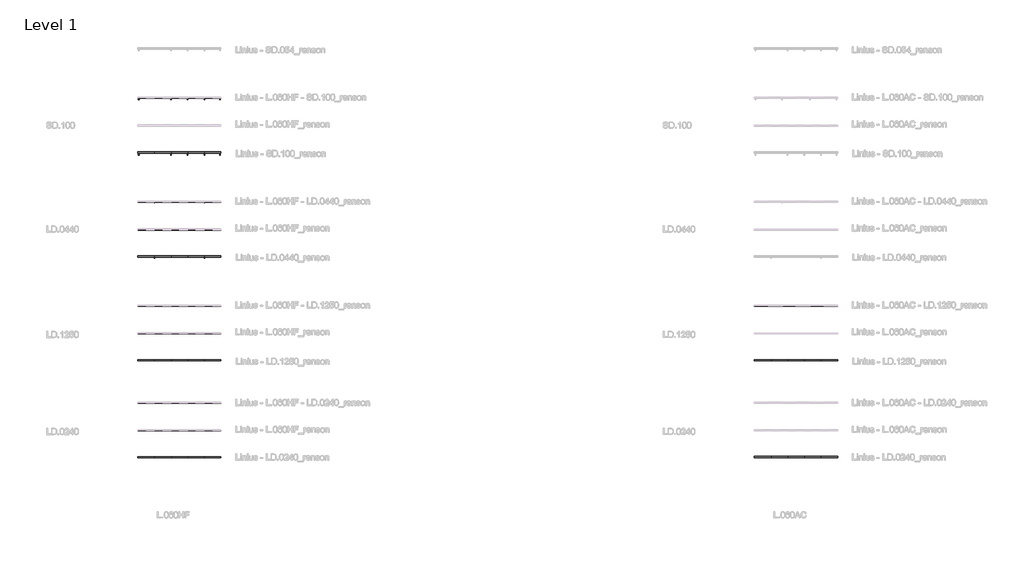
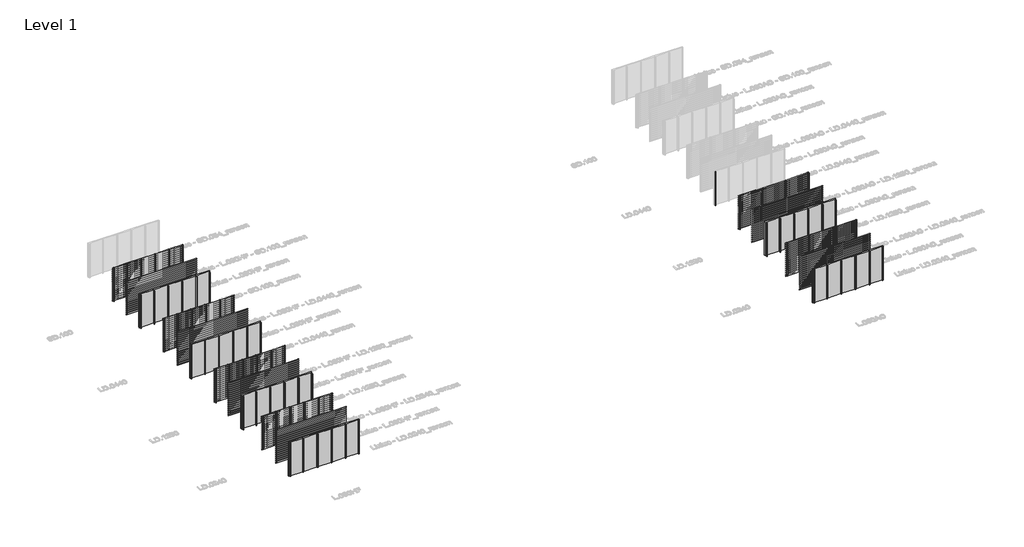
# One storey, part 1 of 153: 69 members, 62 plates.
"""IFC4 building model written with IfcOpenShell, lengths in millimetres."""

from ifc_helpers import new_model, si_unit, origin, origin_with_axes, place, context, project, spatial, polyline, outline, extrude, transform, mapped, element, save
from components import rectangular_mullion_2c867e25, rectangular_mullion_7803f5c4, rectangular_mullion_82152e2f, rectangular_mullion_5b30f3fd, rectangular_mullion_5e0e8e0a, rectangular_mullion_d2d38772, rectangular_mullion_efb80f74, rectangular_mullion_aaa1fb1b, rectangular_mullion_ea9d012c, rectangular_mullion_8b77bd57, rectangular_mullion_6132f1f1, rectangular_mullion_8f153c19, empty_system_panel_empty_5195cd12

model = new_model("IFC4")

# Units and contexts
model_context = context("Model", 3, world=origin())
ifc_project = project(units=[si_unit("LENGTHUNIT", "METRE", prefix="MILLI")], contexts=[model_context])

# Site, building, storey
site = spatial("IfcSite", under=ifc_project)
building = spatial("IfcBuilding", under=site)
storey = spatial("IfcBuildingStorey", under=building, Name="Level 1", Elevation=0.0)

# Members
placement = place(None, origin())
rectangular_mullion_shape = rectangular_mullion_2c867e25(model_context)
element("IfcMember", 1, ObjectType="Rectangular Mullion : LD.0440_renson", at=placement, inside=storey, context=model_context, shape_type="MappedRepresentation", body=[
    mapped(rectangular_mullion_shape, transform((5266.6208095, 21481.0540136, 0.0), x_axis=(-1.0, 0.0, 0.0), y_axis=(0.0, 1.0, 0.0), z_axis=(0.0, 0.0, -1.0))),
])
element("IfcMember", 2, ObjectType="Rectangular Mullion : LD.0440_renson", at=placement, inside=storey, context=model_context, shape_type="MappedRepresentation", body=[
    mapped(rectangular_mullion_shape, transform((4066.6208096, 21481.0540136, 0.0), x_axis=(-1.0, 0.0, 0.0), y_axis=(0.0, 1.0, 0.0), z_axis=(0.0, 0.0, -1.0))),
])
element("IfcMember", 3, ObjectType="Rectangular Mullion : LD.0440_renson", at=placement, inside=storey, context=model_context, shape_type="MappedRepresentation", body=[
    mapped(rectangular_mullion_shape, transform((2866.6208097, 21481.0540136, 0.0), x_axis=(-1.0, 0.0, 0.0), y_axis=(0.0, 1.0, 0.0), z_axis=(0.0, 0.0, -1.0))),
])
element("IfcMember", 4, ObjectType="Rectangular Mullion : LD.0440_renson", at=placement, inside=storey, context=model_context, shape_type="MappedRepresentation", body=[
    mapped(rectangular_mullion_shape, transform((1666.6208099, 21481.0540136, 0.0), x_axis=(-1.0, 0.0, 0.0), y_axis=(0.0, 1.0, 0.0), z_axis=(0.0, 0.0, -1.0))),
])
element("IfcMember", 5, ObjectType="Rectangular Mullion : LD.0440_renson", at=placement, inside=storey, context=model_context, shape_type="MappedRepresentation", body=[
    mapped(rectangular_mullion_shape, transform((5266.6208095, 17481.0540136, 0.0), x_axis=(-1.0, 0.0, 0.0), y_axis=(0.0, 1.0, 0.0), z_axis=(0.0, 0.0, -1.0))),
])
element("IfcMember", 6, ObjectType="Rectangular Mullion : LD.0440_renson", at=placement, inside=storey, context=model_context, shape_type="MappedRepresentation", body=[
    mapped(rectangular_mullion_shape, transform((4066.6208096, 17481.0540136, 0.0), x_axis=(-1.0, 0.0, 0.0), y_axis=(0.0, 1.0, 0.0), z_axis=(0.0, 0.0, -1.0))),
])
element("IfcMember", 7, ObjectType="Rectangular Mullion : LD.0440_renson", at=placement, inside=storey, context=model_context, shape_type="MappedRepresentation", body=[
    mapped(rectangular_mullion_shape, transform((2866.6208097, 17481.0540136, 0.0), x_axis=(-1.0, 0.0, 0.0), y_axis=(0.0, 1.0, 0.0), z_axis=(0.0, 0.0, -1.0))),
])
element("IfcMember", 8, ObjectType="Rectangular Mullion : LD.0440_renson", at=placement, inside=storey, context=model_context, shape_type="MappedRepresentation", body=[
    mapped(rectangular_mullion_shape, transform((1666.6208099, 17481.0540136, 0.0), x_axis=(-1.0, 0.0, 0.0), y_axis=(0.0, 1.0, 0.0), z_axis=(0.0, 0.0, -1.0))),
])
rectangular_mullion_2_shape = rectangular_mullion_7803f5c4(model_context)
element("IfcMember", 9, ObjectType="Rectangular Mullion : LD.1250_renson", at=placement, inside=storey, context=model_context, shape_type="MappedRepresentation", body=[
    mapped(rectangular_mullion_2_shape, transform((5266.6208095, 13981.0540136, 0.0), x_axis=(-1.0, 0.0, 0.0), y_axis=(0.0, 1.0, 0.0), z_axis=(0.0, 0.0, -1.0))),
])
element("IfcMember", 10, ObjectType="Rectangular Mullion : LD.1250_renson", at=placement, inside=storey, context=model_context, shape_type="MappedRepresentation", body=[
    mapped(rectangular_mullion_2_shape, transform((4066.6208096, 13981.0540136, 0.0), x_axis=(-1.0, 0.0, 0.0), y_axis=(0.0, 1.0, 0.0), z_axis=(0.0, 0.0, -1.0))),
])
element("IfcMember", 11, ObjectType="Rectangular Mullion : LD.1250_renson", at=placement, inside=storey, context=model_context, shape_type="MappedRepresentation", body=[
    mapped(rectangular_mullion_2_shape, transform((2866.6208097, 13981.0540136, 0.0), x_axis=(-1.0, 0.0, 0.0), y_axis=(0.0, 1.0, 0.0), z_axis=(0.0, 0.0, -1.0))),
])
element("IfcMember", 12, ObjectType="Rectangular Mullion : LD.1250_renson", at=placement, inside=storey, context=model_context, shape_type="MappedRepresentation", body=[
    mapped(rectangular_mullion_2_shape, transform((1666.6208099, 13981.0540136, 0.0), x_axis=(-1.0, 0.0, 0.0), y_axis=(0.0, 1.0, 0.0), z_axis=(0.0, 0.0, -1.0))),
])
element("IfcMember", 13, ObjectType="Rectangular Mullion : LD.1250_renson", at=placement, inside=storey, context=model_context, shape_type="MappedRepresentation", body=[
    mapped(rectangular_mullion_2_shape, transform((5266.6208095, 9981.0540136, 0.0), x_axis=(-1.0, 0.0, 0.0), y_axis=(0.0, 1.0, 0.0), z_axis=(0.0, 0.0, -1.0))),
])
element("IfcMember", 14, ObjectType="Rectangular Mullion : LD.1250_renson", at=placement, inside=storey, context=model_context, shape_type="MappedRepresentation", body=[
    mapped(rectangular_mullion_2_shape, transform((4066.6208096, 9981.0540136, 0.0), x_axis=(-1.0, 0.0, 0.0), y_axis=(0.0, 1.0, 0.0), z_axis=(0.0, 0.0, -1.0))),
])
element("IfcMember", 15, ObjectType="Rectangular Mullion : LD.1250_renson", at=placement, inside=storey, context=model_context, shape_type="MappedRepresentation", body=[
    mapped(rectangular_mullion_2_shape, transform((2866.6208097, 9981.0540136, 0.0), x_axis=(-1.0, 0.0, 0.0), y_axis=(0.0, 1.0, 0.0), z_axis=(0.0, 0.0, -1.0))),
])
element("IfcMember", 16, ObjectType="Rectangular Mullion : LD.1250_renson", at=placement, inside=storey, context=model_context, shape_type="MappedRepresentation", body=[
    mapped(rectangular_mullion_2_shape, transform((1666.6208099, 9981.0540136, 0.0), x_axis=(-1.0, 0.0, 0.0), y_axis=(0.0, 1.0, 0.0), z_axis=(0.0, 0.0, -1.0))),
])
element("IfcMember", 17, ObjectType="Rectangular Mullion : LD.1250_renson", at=placement, inside=storey, context=model_context, shape_type="MappedRepresentation", body=[
    mapped(rectangular_mullion_2_shape, transform((48966.6208096, 13983.0540136, 0.0), x_axis=(-1.0, 0.0, 0.0), y_axis=(0.0, 1.0, 0.0), z_axis=(0.0, 0.0, -1.0))),
])
element("IfcMember", 18, ObjectType="Rectangular Mullion : LD.1250_renson", at=placement, inside=storey, context=model_context, shape_type="MappedRepresentation", body=[
    mapped(rectangular_mullion_2_shape, transform((46966.6208098, 13983.0540136, 0.0), x_axis=(-1.0, 0.0, 0.0), y_axis=(0.0, 1.0, 0.0), z_axis=(0.0, 0.0, -1.0))),
])
element("IfcMember", 19, ObjectType="Rectangular Mullion : LD.1250_renson", at=placement, inside=storey, context=model_context, shape_type="MappedRepresentation", body=[
    mapped(rectangular_mullion_2_shape, transform((47366.6208097, 9983.0540136, 0.0), x_axis=(-1.0, 0.0, 0.0), y_axis=(0.0, 1.0, 0.0), z_axis=(0.0, 0.0, -1.0))),
])
element("IfcMember", 20, ObjectType="Rectangular Mullion : LD.1250_renson", at=placement, inside=storey, context=model_context, shape_type="MappedRepresentation", body=[
    mapped(rectangular_mullion_2_shape, transform((46166.6208099, 9983.0540136, 0.0), x_axis=(-1.0, 0.0, 0.0), y_axis=(0.0, 1.0, 0.0), z_axis=(0.0, 0.0, -1.0))),
])
element("IfcMember", 21, ObjectType="Rectangular Mullion : LD.1250_renson", at=placement, inside=storey, context=model_context, shape_type="MappedRepresentation", body=[
    mapped(rectangular_mullion_2_shape, transform((48566.6208096, 9983.0540136, 0.0), x_axis=(-1.0, 0.0, 0.0), y_axis=(0.0, 1.0, 0.0), z_axis=(0.0, 0.0, -1.0))),
])
element("IfcMember", 22, ObjectType="Rectangular Mullion : LD.1250_renson", at=placement, inside=storey, context=model_context, shape_type="MappedRepresentation", body=[
    mapped(rectangular_mullion_2_shape, transform((49766.6208095, 9983.0540136, 0.0), x_axis=(-1.0, 0.0, 0.0), y_axis=(0.0, 1.0, 0.0), z_axis=(0.0, 0.0, -1.0))),
])
rectangular_mullion_3_shape = rectangular_mullion_82152e2f(model_context)
element("IfcMember", 23, ObjectType="Rectangular Mullion : LD.0240_renson", at=placement, inside=storey, context=model_context, shape_type="MappedRepresentation", body=[
    mapped(rectangular_mullion_3_shape, transform((5266.6208095, 6985.0270068, 0.0), x_axis=(-1.0, 0.0, 0.0), y_axis=(0.0, 1.0, 0.0), z_axis=(0.0, 0.0, -1.0))),
])
element("IfcMember", 24, ObjectType="Rectangular Mullion : LD.0240_renson", at=placement, inside=storey, context=model_context, shape_type="MappedRepresentation", body=[
    mapped(rectangular_mullion_3_shape, transform((4066.6208096, 6985.0270068, 0.0), x_axis=(-1.0, 0.0, 0.0), y_axis=(0.0, 1.0, 0.0), z_axis=(0.0, 0.0, -1.0))),
])
element("IfcMember", 25, ObjectType="Rectangular Mullion : LD.0240_renson", at=placement, inside=storey, context=model_context, shape_type="MappedRepresentation", body=[
    mapped(rectangular_mullion_3_shape, transform((2866.6208097, 6985.0270068, 0.0), x_axis=(-1.0, 0.0, 0.0), y_axis=(0.0, 1.0, 0.0), z_axis=(0.0, 0.0, -1.0))),
])
element("IfcMember", 26, ObjectType="Rectangular Mullion : LD.0240_renson", at=placement, inside=storey, context=model_context, shape_type="MappedRepresentation", body=[
    mapped(rectangular_mullion_3_shape, transform((1666.6208099, 6985.0270068, 0.0), x_axis=(-1.0, 0.0, 0.0), y_axis=(0.0, 1.0, 0.0), z_axis=(0.0, 0.0, -1.0))),
])
element("IfcMember", 27, ObjectType="Rectangular Mullion : LD.0240_renson", at=placement, inside=storey, context=model_context, shape_type="MappedRepresentation", body=[
    mapped(rectangular_mullion_3_shape, transform((5266.6208095, 2985.0270068, 0.0), x_axis=(-1.0, 0.0, 0.0), y_axis=(0.0, 1.0, 0.0), z_axis=(0.0, 0.0, -1.0))),
])
element("IfcMember", 28, ObjectType="Rectangular Mullion : LD.0240_renson", at=placement, inside=storey, context=model_context, shape_type="MappedRepresentation", body=[
    mapped(rectangular_mullion_3_shape, transform((4066.6208096, 2985.0270068, 0.0), x_axis=(-1.0, 0.0, 0.0), y_axis=(0.0, 1.0, 0.0), z_axis=(0.0, 0.0, -1.0))),
])
element("IfcMember", 29, ObjectType="Rectangular Mullion : LD.0240_renson", at=placement, inside=storey, context=model_context, shape_type="MappedRepresentation", body=[
    mapped(rectangular_mullion_3_shape, transform((2866.6208097, 2985.0270068, 0.0), x_axis=(-1.0, 0.0, 0.0), y_axis=(0.0, 1.0, 0.0), z_axis=(0.0, 0.0, -1.0))),
])
element("IfcMember", 30, ObjectType="Rectangular Mullion : LD.0240_renson", at=placement, inside=storey, context=model_context, shape_type="MappedRepresentation", body=[
    mapped(rectangular_mullion_3_shape, transform((1666.6208099, 2985.0270068, 0.0), x_axis=(-1.0, 0.0, 0.0), y_axis=(0.0, 1.0, 0.0), z_axis=(0.0, 0.0, -1.0))),
])
element("IfcMember", 31, ObjectType="Rectangular Mullion : LD.0240_renson", at=placement, inside=storey, context=model_context, shape_type="MappedRepresentation", body=[
    mapped(rectangular_mullion_3_shape, transform((48966.6208096, 6987.0270068, 0.0), x_axis=(-1.0, 0.0, 0.0), y_axis=(0.0, 1.0, 0.0), z_axis=(0.0, 0.0, -1.0))),
])
element("IfcMember", 32, ObjectType="Rectangular Mullion : LD.0240_renson", at=placement, inside=storey, context=model_context, shape_type="MappedRepresentation", body=[
    mapped(rectangular_mullion_3_shape, transform((46966.6208098, 6987.0270068, 0.0), x_axis=(-1.0, 0.0, 0.0), y_axis=(0.0, 1.0, 0.0), z_axis=(0.0, 0.0, -1.0))),
])
element("IfcMember", 33, ObjectType="Rectangular Mullion : LD.0240_renson", at=placement, inside=storey, context=model_context, shape_type="MappedRepresentation", body=[
    mapped(rectangular_mullion_3_shape, transform((47366.6208097, 2987.0270068, 0.0), x_axis=(-1.0, 0.0, 0.0), y_axis=(0.0, 1.0, 0.0), z_axis=(0.0, 0.0, -1.0))),
])
element("IfcMember", 34, ObjectType="Rectangular Mullion : LD.0240_renson", at=placement, inside=storey, context=model_context, shape_type="MappedRepresentation", body=[
    mapped(rectangular_mullion_3_shape, transform((46166.6208099, 2987.0270068, 0.0), x_axis=(-1.0, 0.0, 0.0), y_axis=(0.0, 1.0, 0.0), z_axis=(0.0, 0.0, -1.0))),
])
element("IfcMember", 35, ObjectType="Rectangular Mullion : LD.0240_renson", at=placement, inside=storey, context=model_context, shape_type="MappedRepresentation", body=[
    mapped(rectangular_mullion_3_shape, transform((48566.6208096, 2987.0270068, 0.0), x_axis=(-1.0, 0.0, 0.0), y_axis=(0.0, 1.0, 0.0), z_axis=(0.0, 0.0, -1.0))),
])
element("IfcMember", 36, ObjectType="Rectangular Mullion : LD.0240_renson", at=placement, inside=storey, context=model_context, shape_type="MappedRepresentation", body=[
    mapped(rectangular_mullion_3_shape, transform((49766.6208095, 2987.0270068, 0.0), x_axis=(-1.0, 0.0, 0.0), y_axis=(0.0, 1.0, 0.0), z_axis=(0.0, 0.0, -1.0))),
])
rectangular_mullion_4_shape = rectangular_mullion_5b30f3fd(model_context)
element("IfcMember", 37, ObjectType="Rectangular Mullion : LD.0440 - left_renson", at=placement, inside=storey, context=model_context, shape_type="MappedRepresentation", body=[
    mapped(rectangular_mullion_4_shape, transform((466.6208097, 21481.0540136, 0.0), x_axis=(-1.0, 0.0, 0.0), y_axis=(0.0, 1.0, 0.0), z_axis=(0.0, 0.0, -1.0))),
])
element("IfcMember", 38, ObjectType="Rectangular Mullion : LD.0440 - left_renson", at=placement, inside=storey, context=model_context, shape_type="MappedRepresentation", body=[
    mapped(rectangular_mullion_4_shape, transform((466.6208097, 17481.0540136, 0.0), x_axis=(-1.0, 0.0, 0.0), y_axis=(0.0, 1.0, 0.0), z_axis=(0.0, 0.0, -1.0))),
])
element("IfcMember", 39, ObjectType="Rectangular Mullion : LD.0440 - left_renson", at=placement, inside=storey, context=model_context, shape_type="MappedRepresentation", body=[
    mapped(rectangular_mullion_4_shape, transform((44966.6208097, 17483.0540136, 0.0), x_axis=(-1.0, 0.0, 0.0), y_axis=(0.0, 1.0, 0.0), z_axis=(0.0, 0.0, -1.0))),
])
rectangular_mullion_5_shape = rectangular_mullion_5e0e8e0a(model_context)
element("IfcMember", 40, ObjectType="Rectangular Mullion : LD.0440 - right_renson", at=placement, inside=storey, context=model_context, shape_type="MappedRepresentation", body=[
    mapped(rectangular_mullion_5_shape, transform((6466.6208097, 21481.0540136, 3000.0), x_axis=(1.0, 0.0, 0.0), y_axis=(0.0, 1.0, 0.0), z_axis=(0.0, 0.0, 1.0))),
])
element("IfcMember", 41, ObjectType="Rectangular Mullion : LD.0440 - right_renson", at=placement, inside=storey, context=model_context, shape_type="MappedRepresentation", body=[
    mapped(rectangular_mullion_5_shape, transform((6466.6208097, 17481.0540136, 3000.0), x_axis=(1.0, 0.0, 0.0), y_axis=(0.0, 1.0, 0.0), z_axis=(0.0, 0.0, 1.0))),
])
rectangular_mullion_6_shape = rectangular_mullion_d2d38772(model_context)
element("IfcMember", 42, ObjectType="Rectangular Mullion : LD.1250 - left_renson", at=placement, inside=storey, context=model_context, shape_type="MappedRepresentation", body=[
    mapped(rectangular_mullion_6_shape, transform((466.6208097, 13981.0540136, 0.0), x_axis=(-1.0, 0.0, 0.0), y_axis=(0.0, 1.0, 0.0), z_axis=(0.0, 0.0, -1.0))),
])
element("IfcMember", 43, ObjectType="Rectangular Mullion : LD.1250 - left_renson", at=placement, inside=storey, context=model_context, shape_type="MappedRepresentation", body=[
    mapped(rectangular_mullion_6_shape, transform((466.6208097, 9981.0540136, 0.0), x_axis=(-1.0, 0.0, 0.0), y_axis=(0.0, 1.0, 0.0), z_axis=(0.0, 0.0, -1.0))),
])
element("IfcMember", 44, ObjectType="Rectangular Mullion : LD.1250 - left_renson", at=placement, inside=storey, context=model_context, shape_type="MappedRepresentation", body=[
    mapped(rectangular_mullion_6_shape, transform((44966.6208097, 13983.0540136, 0.0), x_axis=(-1.0, 0.0, 0.0), y_axis=(0.0, 1.0, 0.0), z_axis=(0.0, 0.0, -1.0))),
])
element("IfcMember", 45, ObjectType="Rectangular Mullion : LD.1250 - left_renson", at=placement, inside=storey, context=model_context, shape_type="MappedRepresentation", body=[
    mapped(rectangular_mullion_6_shape, transform((44966.6208097, 9983.0540136, 0.0), x_axis=(-1.0, 0.0, 0.0), y_axis=(0.0, 1.0, 0.0), z_axis=(0.0, 0.0, -1.0))),
])
rectangular_mullion_7_shape = rectangular_mullion_efb80f74(model_context)
element("IfcMember", 46, ObjectType="Rectangular Mullion : LD.1250 - right_renson", at=placement, inside=storey, context=model_context, shape_type="MappedRepresentation", body=[
    mapped(rectangular_mullion_7_shape, transform((6466.6208097, 13981.0540136, 3000.0), x_axis=(1.0, 0.0, 0.0), y_axis=(0.0, 1.0, 0.0), z_axis=(0.0, 0.0, 1.0))),
])
element("IfcMember", 47, ObjectType="Rectangular Mullion : LD.1250 - right_renson", at=placement, inside=storey, context=model_context, shape_type="MappedRepresentation", body=[
    mapped(rectangular_mullion_7_shape, transform((6466.6208097, 9981.0540136, 3000.0), x_axis=(1.0, 0.0, 0.0), y_axis=(0.0, 1.0, 0.0), z_axis=(0.0, 0.0, 1.0))),
])
element("IfcMember", 48, ObjectType="Rectangular Mullion : LD.1250 - right_renson", at=placement, inside=storey, context=model_context, shape_type="MappedRepresentation", body=[
    mapped(rectangular_mullion_7_shape, transform((50966.6208097, 13983.0540136, 3000.0), x_axis=(1.0, 0.0, 0.0), y_axis=(0.0, 1.0, 0.0), z_axis=(0.0, 0.0, 1.0))),
])
element("IfcMember", 49, ObjectType="Rectangular Mullion : LD.1250 - right_renson", at=placement, inside=storey, context=model_context, shape_type="MappedRepresentation", body=[
    mapped(rectangular_mullion_7_shape, transform((50966.6208097, 9983.0540136, 3000.0), x_axis=(1.0, 0.0, 0.0), y_axis=(0.0, 1.0, 0.0), z_axis=(0.0, 0.0, 1.0))),
])
rectangular_mullion_8_shape = rectangular_mullion_aaa1fb1b(model_context)
element("IfcMember", 50, ObjectType="Rectangular Mullion : LD.0240 - left_renson", at=placement, inside=storey, context=model_context, shape_type="MappedRepresentation", body=[
    mapped(rectangular_mullion_8_shape, transform((466.6208097, 6985.0270068, 0.0), x_axis=(-1.0, 0.0, 0.0), y_axis=(0.0, 1.0, 0.0), z_axis=(0.0, 0.0, -1.0))),
])
element("IfcMember", 51, ObjectType="Rectangular Mullion : LD.0240 - left_renson", at=placement, inside=storey, context=model_context, shape_type="MappedRepresentation", body=[
    mapped(rectangular_mullion_8_shape, transform((466.6208097, 2985.0270068, 0.0), x_axis=(-1.0, 0.0, 0.0), y_axis=(0.0, 1.0, 0.0), z_axis=(0.0, 0.0, -1.0))),
])
element("IfcMember", 52, ObjectType="Rectangular Mullion : LD.0240 - left_renson", at=placement, inside=storey, context=model_context, shape_type="MappedRepresentation", body=[
    mapped(rectangular_mullion_8_shape, transform((44966.6208097, 6987.0270068, 0.0), x_axis=(-1.0, 0.0, 0.0), y_axis=(0.0, 1.0, 0.0), z_axis=(0.0, 0.0, -1.0))),
])
element("IfcMember", 53, ObjectType="Rectangular Mullion : LD.0240 - left_renson", at=placement, inside=storey, context=model_context, shape_type="MappedRepresentation", body=[
    mapped(rectangular_mullion_8_shape, transform((44966.6208097, 2987.0270068, 0.0), x_axis=(-1.0, 0.0, 0.0), y_axis=(0.0, 1.0, 0.0), z_axis=(0.0, 0.0, -1.0))),
])
rectangular_mullion_9_shape = rectangular_mullion_ea9d012c(model_context)
element("IfcMember", 54, ObjectType="Rectangular Mullion : LD.0240 - right_renson", at=placement, inside=storey, context=model_context, shape_type="MappedRepresentation", body=[
    mapped(rectangular_mullion_9_shape, transform((6466.6208097, 6985.0270068, 3000.0), x_axis=(1.0, 0.0, 0.0), y_axis=(0.0, 1.0, 0.0), z_axis=(0.0, 0.0, 1.0))),
])
element("IfcMember", 55, ObjectType="Rectangular Mullion : LD.0240 - right_renson", at=placement, inside=storey, context=model_context, shape_type="MappedRepresentation", body=[
    mapped(rectangular_mullion_9_shape, transform((6466.6208097, 2985.0270068, 3000.0), x_axis=(1.0, 0.0, 0.0), y_axis=(0.0, 1.0, 0.0), z_axis=(0.0, 0.0, 1.0))),
])
element("IfcMember", 56, ObjectType="Rectangular Mullion : LD.0240 - right_renson", at=placement, inside=storey, context=model_context, shape_type="MappedRepresentation", body=[
    mapped(rectangular_mullion_9_shape, transform((50966.6208097, 6987.0270068, 3000.0), x_axis=(1.0, 0.0, 0.0), y_axis=(0.0, 1.0, 0.0), z_axis=(0.0, 0.0, 1.0))),
])
element("IfcMember", 57, ObjectType="Rectangular Mullion : LD.0240 - right_renson", at=placement, inside=storey, context=model_context, shape_type="MappedRepresentation", body=[
    mapped(rectangular_mullion_9_shape, transform((50966.6208097, 2987.0270068, 3000.0), x_axis=(1.0, 0.0, 0.0), y_axis=(0.0, 1.0, 0.0), z_axis=(0.0, 0.0, 1.0))),
])
rectangular_mullion_10_shape = rectangular_mullion_8b77bd57(model_context)
element("IfcMember", 58, ObjectType="Rectangular Mullion : SD.100_renson", at=placement, inside=storey, context=model_context, shape_type="MappedRepresentation", body=[
    mapped(rectangular_mullion_10_shape, transform((5266.6208095, 28981.0540136, 0.0), x_axis=(-1.0, 0.0, 0.0), y_axis=(0.0, 1.0, 0.0), z_axis=(0.0, 0.0, -1.0))),
])
element("IfcMember", 59, ObjectType="Rectangular Mullion : SD.100_renson", at=placement, inside=storey, context=model_context, shape_type="MappedRepresentation", body=[
    mapped(rectangular_mullion_10_shape, transform((4066.6208096, 28981.0540136, 0.0), x_axis=(-1.0, 0.0, 0.0), y_axis=(0.0, 1.0, 0.0), z_axis=(0.0, 0.0, -1.0))),
])
element("IfcMember", 60, ObjectType="Rectangular Mullion : SD.100_renson", at=placement, inside=storey, context=model_context, shape_type="MappedRepresentation", body=[
    mapped(rectangular_mullion_10_shape, transform((2866.6208097, 28981.0540136, 0.0), x_axis=(-1.0, 0.0, 0.0), y_axis=(0.0, 1.0, 0.0), z_axis=(0.0, 0.0, -1.0))),
])
element("IfcMember", 61, ObjectType="Rectangular Mullion : SD.100_renson", at=placement, inside=storey, context=model_context, shape_type="MappedRepresentation", body=[
    mapped(rectangular_mullion_10_shape, transform((1666.6208099, 28981.0540136, 0.0), x_axis=(-1.0, 0.0, 0.0), y_axis=(0.0, 1.0, 0.0), z_axis=(0.0, 0.0, -1.0))),
])
element("IfcMember", 62, ObjectType="Rectangular Mullion : SD.100_renson", at=placement, inside=storey, context=model_context, shape_type="MappedRepresentation", body=[
    mapped(rectangular_mullion_10_shape, transform((5266.6208095, 24981.0540136, 0.0), x_axis=(-1.0, 0.0, 0.0), y_axis=(0.0, 1.0, 0.0), z_axis=(0.0, 0.0, -1.0))),
])
element("IfcMember", 63, ObjectType="Rectangular Mullion : SD.100_renson", at=placement, inside=storey, context=model_context, shape_type="MappedRepresentation", body=[
    mapped(rectangular_mullion_10_shape, transform((4066.6208096, 24981.0540136, 0.0), x_axis=(-1.0, 0.0, 0.0), y_axis=(0.0, 1.0, 0.0), z_axis=(0.0, 0.0, -1.0))),
])
element("IfcMember", 64, ObjectType="Rectangular Mullion : SD.100_renson", at=placement, inside=storey, context=model_context, shape_type="MappedRepresentation", body=[
    mapped(rectangular_mullion_10_shape, transform((2866.6208097, 24981.0540136, 0.0), x_axis=(-1.0, 0.0, 0.0), y_axis=(0.0, 1.0, 0.0), z_axis=(0.0, 0.0, -1.0))),
])
element("IfcMember", 65, ObjectType="Rectangular Mullion : SD.100_renson", at=placement, inside=storey, context=model_context, shape_type="MappedRepresentation", body=[
    mapped(rectangular_mullion_10_shape, transform((1666.6208099, 24981.0540136, 0.0), x_axis=(-1.0, 0.0, 0.0), y_axis=(0.0, 1.0, 0.0), z_axis=(0.0, 0.0, -1.0))),
])
rectangular_mullion_11_shape = rectangular_mullion_6132f1f1(model_context)
element("IfcMember", 66, ObjectType="Rectangular Mullion : SD.100 - left_renson", at=placement, inside=storey, context=model_context, shape_type="MappedRepresentation", body=[
    mapped(rectangular_mullion_11_shape, transform((466.6208097, 28981.0540136, 0.0), x_axis=(-1.0, 0.0, 0.0), y_axis=(0.0, 1.0, 0.0), z_axis=(0.0, 0.0, -1.0))),
])
element("IfcMember", 67, ObjectType="Rectangular Mullion : SD.100 - left_renson", at=placement, inside=storey, context=model_context, shape_type="MappedRepresentation", body=[
    mapped(rectangular_mullion_11_shape, transform((466.6208097, 24981.0540136, 0.0), x_axis=(-1.0, 0.0, 0.0), y_axis=(0.0, 1.0, 0.0), z_axis=(0.0, 0.0, -1.0))),
])
rectangular_mullion_12_shape = rectangular_mullion_8f153c19(model_context)
element("IfcMember", 68, ObjectType="Rectangular Mullion : SD.100 - right_renson", at=placement, inside=storey, context=model_context, shape_type="MappedRepresentation", body=[
    mapped(rectangular_mullion_12_shape, transform((6466.6208097, 28981.0540136, 3000.0), x_axis=(1.0, 0.0, 0.0), y_axis=(0.0, 1.0, 0.0), z_axis=(0.0, 0.0, 1.0))),
])
element("IfcMember", 69, ObjectType="Rectangular Mullion : SD.100 - right_renson", at=placement, inside=storey, context=model_context, shape_type="MappedRepresentation", body=[
    mapped(rectangular_mullion_12_shape, transform((6466.6208097, 24981.0540136, 3000.0), x_axis=(1.0, 0.0, 0.0), y_axis=(0.0, 1.0, 0.0), z_axis=(0.0, 0.0, 1.0))),
])

# Plates
element("IfcPlate", 70, ObjectType="Linius - L.060HF_renson", at=placement, inside=storey, context=model_context, shape_type="SweptSolid", body=[
    extrude(outline(polyline([(466.6208097, 28982.0540136), (1666.6208099, 28982.0540136), (1666.6208099, 28980.0540136), (466.6208097, 28980.0540136), (466.6208097, 28982.0540136)])), origin_with_axes(), (0.0, 0.0, 1.0), 3000.0),
])
element("IfcPlate", 71, ObjectType="Linius - L.060HF_renson", at=placement, inside=storey, context=model_context, shape_type="SweptSolid", body=[
    extrude(outline(polyline([(1666.6208099, 28982.0540136), (2866.6208097, 28982.0540136), (2866.6208097, 28980.0540136), (1666.6208099, 28980.0540136), (1666.6208099, 28982.0540136)])), origin_with_axes(), (0.0, 0.0, 1.0), 3000.0),
])
element("IfcPlate", 72, ObjectType="Linius - L.060HF_renson", at=placement, inside=storey, context=model_context, shape_type="SweptSolid", body=[
    extrude(outline(polyline([(2866.6208097, 28982.0540136), (4066.6208096, 28982.0540136), (4066.6208096, 28980.0540136), (2866.6208097, 28980.0540136), (2866.6208097, 28982.0540136)])), origin_with_axes(), (0.0, 0.0, 1.0), 3000.0),
])
element("IfcPlate", 73, ObjectType="Linius - L.060HF_renson", at=placement, inside=storey, context=model_context, shape_type="SweptSolid", body=[
    extrude(outline(polyline([(4066.6208096, 28982.0540136), (5266.6208095, 28982.0540136), (5266.6208095, 28980.0540136), (4066.6208096, 28980.0540136), (4066.6208096, 28982.0540136)])), origin_with_axes(), (0.0, 0.0, 1.0), 3000.0),
])
element("IfcPlate", 74, ObjectType="Linius - L.060HF_renson", at=placement, inside=storey, context=model_context, shape_type="SweptSolid", body=[
    extrude(outline(polyline([(466.6208097, 26982.0540136), (6466.6208097, 26982.0540136), (6466.6208097, 26980.0540136), (466.6208097, 26980.0540136), (466.6208097, 26982.0540136)])), origin_with_axes(), (0.0, 0.0, 1.0), 3000.0),
])
element("IfcPlate", 75, ObjectType="Linius - L.060HF_renson", at=placement, inside=storey, context=model_context, shape_type="SweptSolid", body=[
    extrude(outline(polyline([(466.6208097, 21482.0540136), (1666.6208099, 21482.0540136), (1666.6208099, 21480.0540136), (466.6208097, 21480.0540136), (466.6208097, 21482.0540136)])), origin_with_axes(), (0.0, 0.0, 1.0), 3000.0),
])
element("IfcPlate", 76, ObjectType="Linius - L.060HF_renson", at=placement, inside=storey, context=model_context, shape_type="SweptSolid", body=[
    extrude(outline(polyline([(1666.6208099, 21482.0540136), (2866.6208097, 21482.0540136), (2866.6208097, 21480.0540136), (1666.6208099, 21480.0540136), (1666.6208099, 21482.0540136)])), origin_with_axes(), (0.0, 0.0, 1.0), 3000.0),
])
element("IfcPlate", 77, ObjectType="Linius - L.060HF_renson", at=placement, inside=storey, context=model_context, shape_type="SweptSolid", body=[
    extrude(outline(polyline([(2866.6208097, 21482.0540136), (4066.6208096, 21482.0540136), (4066.6208096, 21480.0540136), (2866.6208097, 21480.0540136), (2866.6208097, 21482.0540136)])), origin_with_axes(), (0.0, 0.0, 1.0), 3000.0),
])
element("IfcPlate", 78, ObjectType="Linius - L.060HF_renson", at=placement, inside=storey, context=model_context, shape_type="SweptSolid", body=[
    extrude(outline(polyline([(4066.6208096, 21482.0540136), (5266.6208095, 21482.0540136), (5266.6208095, 21480.0540136), (4066.6208096, 21480.0540136), (4066.6208096, 21482.0540136)])), origin_with_axes(), (0.0, 0.0, 1.0), 3000.0),
])
element("IfcPlate", 79, ObjectType="Linius - L.060HF_renson", at=placement, inside=storey, context=model_context, shape_type="SweptSolid", body=[
    extrude(outline(polyline([(466.6208097, 19482.0540136), (6466.6208097, 19482.0540136), (6466.6208097, 19480.0540136), (466.6208097, 19480.0540136), (466.6208097, 19482.0540136)])), origin_with_axes(), (0.0, 0.0, 1.0), 3000.0),
])
element("IfcPlate", 80, ObjectType="Linius - L.060HF_renson", at=placement, inside=storey, context=model_context, shape_type="SweptSolid", body=[
    extrude(outline(polyline([(466.6208097, 13982.0540136), (1666.6208099, 13982.0540136), (1666.6208099, 13980.0540136), (466.6208097, 13980.0540136), (466.6208097, 13982.0540136)])), origin_with_axes(), (0.0, 0.0, 1.0), 3000.0),
])
element("IfcPlate", 81, ObjectType="Linius - L.060HF_renson", at=placement, inside=storey, context=model_context, shape_type="SweptSolid", body=[
    extrude(outline(polyline([(1666.6208099, 13982.0540136), (2866.6208097, 13982.0540136), (2866.6208097, 13980.0540136), (1666.6208099, 13980.0540136), (1666.6208099, 13982.0540136)])), origin_with_axes(), (0.0, 0.0, 1.0), 3000.0),
])
element("IfcPlate", 82, ObjectType="Linius - L.060HF_renson", at=placement, inside=storey, context=model_context, shape_type="SweptSolid", body=[
    extrude(outline(polyline([(2866.6208097, 13982.0540136), (4066.6208096, 13982.0540136), (4066.6208096, 13980.0540136), (2866.6208097, 13980.0540136), (2866.6208097, 13982.0540136)])), origin_with_axes(), (0.0, 0.0, 1.0), 3000.0),
])
element("IfcPlate", 83, ObjectType="Linius - L.060HF_renson", at=placement, inside=storey, context=model_context, shape_type="SweptSolid", body=[
    extrude(outline(polyline([(4066.6208096, 13982.0540136), (5266.6208095, 13982.0540136), (5266.6208095, 13980.0540136), (4066.6208096, 13980.0540136), (4066.6208096, 13982.0540136)])), origin_with_axes(), (0.0, 0.0, 1.0), 3000.0),
])
element("IfcPlate", 84, ObjectType="Linius - L.060HF_renson", at=placement, inside=storey, context=model_context, shape_type="SweptSolid", body=[
    extrude(outline(polyline([(466.6208097, 11982.0540136), (6466.6208097, 11982.0540136), (6466.6208097, 11980.0540136), (466.6208097, 11980.0540136), (466.6208097, 11982.0540136)])), origin_with_axes(), (0.0, 0.0, 1.0), 3000.0),
])
element("IfcPlate", 85, ObjectType="Linius - L.060HF_renson", at=placement, inside=storey, context=model_context, shape_type="SweptSolid", body=[
    extrude(outline(polyline([(466.6208097, 6986.0270068), (1666.6208099, 6986.0270068), (1666.6208099, 6984.0270068), (466.6208097, 6984.0270068), (466.6208097, 6986.0270068)])), origin_with_axes(), (0.0, 0.0, 1.0), 3000.0),
])
element("IfcPlate", 86, ObjectType="Linius - L.060HF_renson", at=placement, inside=storey, context=model_context, shape_type="SweptSolid", body=[
    extrude(outline(polyline([(1666.6208099, 6986.0270068), (2866.6208097, 6986.0270068), (2866.6208097, 6984.0270068), (1666.6208099, 6984.0270068), (1666.6208099, 6986.0270068)])), origin_with_axes(), (0.0, 0.0, 1.0), 3000.0),
])
element("IfcPlate", 87, ObjectType="Linius - L.060HF_renson", at=placement, inside=storey, context=model_context, shape_type="SweptSolid", body=[
    extrude(outline(polyline([(2866.6208097, 6986.0270068), (4066.6208096, 6986.0270068), (4066.6208096, 6984.0270068), (2866.6208097, 6984.0270068), (2866.6208097, 6986.0270068)])), origin_with_axes(), (0.0, 0.0, 1.0), 3000.0),
])
element("IfcPlate", 88, ObjectType="Linius - L.060HF_renson", at=placement, inside=storey, context=model_context, shape_type="SweptSolid", body=[
    extrude(outline(polyline([(4066.6208096, 6986.0270068), (5266.6208095, 6986.0270068), (5266.6208095, 6984.0270068), (4066.6208096, 6984.0270068), (4066.6208096, 6986.0270068)])), origin_with_axes(), (0.0, 0.0, 1.0), 3000.0),
])
element("IfcPlate", 89, ObjectType="Linius - L.060HF_renson", at=placement, inside=storey, context=model_context, shape_type="SweptSolid", body=[
    extrude(outline(polyline([(466.6208097, 4986.0270068), (6466.6208097, 4986.0270068), (6466.6208097, 4984.0270068), (466.6208097, 4984.0270068), (466.6208097, 4986.0270068)])), origin_with_axes(), (0.0, 0.0, 1.0), 3000.0),
])
element("IfcPlate", 90, ObjectType="Linius - L.060HF_renson", at=placement, inside=storey, context=model_context, shape_type="SweptSolid", body=[
    extrude(outline(polyline([(5266.6208095, 6986.0270068), (6466.6208097, 6986.0270068), (6466.6208097, 6984.0270068), (5266.6208095, 6984.0270068), (5266.6208095, 6986.0270068)])), origin_with_axes(), (0.0, 0.0, 1.0), 3000.0),
])
element("IfcPlate", 91, ObjectType="Linius - L.060HF_renson", at=placement, inside=storey, context=model_context, shape_type="SweptSolid", body=[
    extrude(outline(polyline([(5266.6208095, 21482.0540136), (6466.6208097, 21482.0540136), (6466.6208097, 21480.0540136), (5266.6208095, 21480.0540136), (5266.6208095, 21482.0540136)])), origin_with_axes(), (0.0, 0.0, 1.0), 3000.0),
])
element("IfcPlate", 92, ObjectType="Linius - L.060HF_renson", at=placement, inside=storey, context=model_context, shape_type="SweptSolid", body=[
    extrude(outline(polyline([(5266.6208095, 13982.0540136), (6466.6208097, 13982.0540136), (6466.6208097, 13980.0540136), (5266.6208095, 13980.0540136), (5266.6208095, 13982.0540136)])), origin_with_axes(), (0.0, 0.0, 1.0), 3000.0),
])
element("IfcPlate", 93, ObjectType="Linius - L.060HF_renson", at=placement, inside=storey, context=model_context, shape_type="SweptSolid", body=[
    extrude(outline(polyline([(5266.6208095, 28982.0540136), (6466.6208097, 28982.0540136), (6466.6208097, 28980.0540136), (5266.6208095, 28980.0540136), (5266.6208095, 28982.0540136)])), origin_with_axes(), (0.0, 0.0, 1.0), 3000.0),
])
element("IfcPlate", 94, ObjectType="Linius - L.060AC_renson", at=placement, inside=storey, context=model_context, shape_type="SweptSolid", body=[
    extrude(outline(polyline([(44966.6208097, 13984.0540136), (46966.6208098, 13984.0540136), (46966.6208098, 13982.0540136), (44966.6208097, 13982.0540136), (44966.6208097, 13984.0540136)])), origin_with_axes(), (0.0, 0.0, 1.0), 3000.0),
])
element("IfcPlate", 95, ObjectType="Linius - L.060AC_renson", at=placement, inside=storey, context=model_context, shape_type="SweptSolid", body=[
    extrude(outline(polyline([(46966.6208098, 13984.0540136), (48966.6208096, 13984.0540136), (48966.6208096, 13982.0540136), (46966.6208098, 13982.0540136), (46966.6208098, 13984.0540136)])), origin_with_axes(), (0.0, 0.0, 1.0), 3000.0),
])
element("IfcPlate", 96, ObjectType="Linius - L.060AC_renson", at=placement, inside=storey, context=model_context, shape_type="SweptSolid", body=[
    extrude(outline(polyline([(44966.6208097, 11984.0540136), (50966.6208097, 11984.0540136), (50966.6208097, 11982.0540136), (44966.6208097, 11982.0540136), (44966.6208097, 11984.0540136)])), origin_with_axes(), (0.0, 0.0, 1.0), 3000.0),
])
element("IfcPlate", 97, ObjectType="Linius - L.060AC_renson", at=placement, inside=storey, context=model_context, shape_type="SweptSolid", body=[
    extrude(outline(polyline([(44966.6208097, 6988.0270068), (46966.6208098, 6988.0270068), (46966.6208098, 6986.0270068), (44966.6208097, 6986.0270068), (44966.6208097, 6988.0270068)])), origin_with_axes(), (0.0, 0.0, 1.0), 3000.0),
])
element("IfcPlate", 98, ObjectType="Linius - L.060AC_renson", at=placement, inside=storey, context=model_context, shape_type="SweptSolid", body=[
    extrude(outline(polyline([(46966.6208098, 6988.0270068), (48966.6208096, 6988.0270068), (48966.6208096, 6986.0270068), (46966.6208098, 6986.0270068), (46966.6208098, 6988.0270068)])), origin_with_axes(), (0.0, 0.0, 1.0), 3000.0),
])
element("IfcPlate", 99, ObjectType="Linius - L.060AC_renson", at=placement, inside=storey, context=model_context, shape_type="SweptSolid", body=[
    extrude(outline(polyline([(44966.6208097, 4988.0270068), (50966.6208097, 4988.0270068), (50966.6208097, 4986.0270068), (44966.6208097, 4986.0270068), (44966.6208097, 4988.0270068)])), origin_with_axes(), (0.0, 0.0, 1.0), 3000.0),
])
element("IfcPlate", 100, ObjectType="Linius - L.060AC_renson", at=placement, inside=storey, context=model_context, shape_type="SweptSolid", body=[
    extrude(outline(polyline([(48966.6208096, 6988.0270068), (50966.6208097, 6988.0270068), (50966.6208097, 6986.0270068), (48966.6208096, 6986.0270068), (48966.6208096, 6988.0270068)])), origin_with_axes(), (0.0, 0.0, 1.0), 3000.0),
])
element("IfcPlate", 101, ObjectType="Linius - L.060AC_renson", at=placement, inside=storey, context=model_context, shape_type="SweptSolid", body=[
    extrude(outline(polyline([(48966.6208096, 13984.0540136), (50966.6208097, 13984.0540136), (50966.6208097, 13982.0540136), (48966.6208096, 13982.0540136), (48966.6208096, 13984.0540136)])), origin_with_axes(), (0.0, 0.0, 1.0), 3000.0),
])
empty_system_panel_empty_shape = empty_system_panel_empty_5195cd12(model_context)
element("IfcPlate", 102, ObjectType="Empty System Panel : Empty", at=placement, inside=storey, context=model_context, shape_type="MappedRepresentation", body=[
    mapped(empty_system_panel_empty_shape, transform((5866.6208096, 24981.0540136, 0.0), x_axis=(-1.0, 0.0, 0.0), y_axis=(0.0, -1.0, 0.0), z_axis=(0.0, 0.0, 1.0))),
])
element("IfcPlate", 103, ObjectType="Empty System Panel : Empty", at=placement, inside=storey, context=model_context, shape_type="MappedRepresentation", body=[
    mapped(empty_system_panel_empty_shape, transform((5866.6208096, 17481.0540136, 0.0), x_axis=(-1.0, 0.0, 0.0), y_axis=(0.0, -1.0, 0.0), z_axis=(0.0, 0.0, 1.0))),
])
element("IfcPlate", 104, ObjectType="Empty System Panel : Empty", at=placement, inside=storey, context=model_context, shape_type="MappedRepresentation", body=[
    mapped(empty_system_panel_empty_shape, transform((5866.6208096, 9981.0540136, 0.0), x_axis=(-1.0, 0.0, 0.0), y_axis=(0.0, -1.0, 0.0), z_axis=(0.0, 0.0, 1.0))),
])
element("IfcPlate", 105, ObjectType="Empty System Panel : Empty", at=placement, inside=storey, context=model_context, shape_type="MappedRepresentation", body=[
    mapped(empty_system_panel_empty_shape, transform((5866.6208096, 2985.0270068, 0.0), x_axis=(-1.0, 0.0, 0.0), y_axis=(0.0, -1.0, 0.0), z_axis=(0.0, 0.0, 1.0))),
])
element("IfcPlate", 106, ObjectType="Empty System Panel : Empty", at=placement, inside=storey, context=model_context, shape_type="MappedRepresentation", body=[
    mapped(empty_system_panel_empty_shape, transform((4666.6208096, 24981.0540136, 0.0), x_axis=(-1.0, 0.0, 0.0), y_axis=(0.0, -1.0, 0.0), z_axis=(0.0, 0.0, 1.0))),
])
element("IfcPlate", 107, ObjectType="Empty System Panel : Empty", at=placement, inside=storey, context=model_context, shape_type="MappedRepresentation", body=[
    mapped(empty_system_panel_empty_shape, transform((3466.6208097, 24981.0540136, 0.0), x_axis=(-1.0, 0.0, 0.0), y_axis=(0.0, -1.0, 0.0), z_axis=(0.0, 0.0, 1.0))),
])
element("IfcPlate", 108, ObjectType="Empty System Panel : Empty", at=placement, inside=storey, context=model_context, shape_type="MappedRepresentation", body=[
    mapped(empty_system_panel_empty_shape, transform((2266.6208098, 24981.0540136, 0.0), x_axis=(-1.0, 0.0, 0.0), y_axis=(0.0, -1.0, 0.0), z_axis=(0.0, 0.0, 1.0))),
])
element("IfcPlate", 109, ObjectType="Empty System Panel : Empty", at=placement, inside=storey, context=model_context, shape_type="MappedRepresentation", body=[
    mapped(empty_system_panel_empty_shape, transform((1066.6208098, 24981.0540136, 0.0), x_axis=(-1.0, 0.0, 0.0), y_axis=(0.0, -1.0, 0.0), z_axis=(0.0, 0.0, 1.0))),
])
element("IfcPlate", 110, ObjectType="Empty System Panel : Empty", at=placement, inside=storey, context=model_context, shape_type="MappedRepresentation", body=[
    mapped(empty_system_panel_empty_shape, transform((4666.6208096, 17481.0540136, 0.0), x_axis=(-1.0, 0.0, 0.0), y_axis=(0.0, -1.0, 0.0), z_axis=(0.0, 0.0, 1.0))),
])
element("IfcPlate", 111, ObjectType="Empty System Panel : Empty", at=placement, inside=storey, context=model_context, shape_type="MappedRepresentation", body=[
    mapped(empty_system_panel_empty_shape, transform((3466.6208097, 17481.0540136, 0.0), x_axis=(-1.0, 0.0, 0.0), y_axis=(0.0, -1.0, 0.0), z_axis=(0.0, 0.0, 1.0))),
])
element("IfcPlate", 112, ObjectType="Empty System Panel : Empty", at=placement, inside=storey, context=model_context, shape_type="MappedRepresentation", body=[
    mapped(empty_system_panel_empty_shape, transform((2266.6208098, 17481.0540136, 0.0), x_axis=(-1.0, 0.0, 0.0), y_axis=(0.0, -1.0, 0.0), z_axis=(0.0, 0.0, 1.0))),
])
element("IfcPlate", 113, ObjectType="Empty System Panel : Empty", at=placement, inside=storey, context=model_context, shape_type="MappedRepresentation", body=[
    mapped(empty_system_panel_empty_shape, transform((1066.6208098, 17481.0540136, 0.0), x_axis=(-1.0, 0.0, 0.0), y_axis=(0.0, -1.0, 0.0), z_axis=(0.0, 0.0, 1.0))),
])
element("IfcPlate", 114, ObjectType="Empty System Panel : Empty", at=placement, inside=storey, context=model_context, shape_type="MappedRepresentation", body=[
    mapped(empty_system_panel_empty_shape, transform((4666.6208096, 9981.0540136, 0.0), x_axis=(-1.0, 0.0, 0.0), y_axis=(0.0, -1.0, 0.0), z_axis=(0.0, 0.0, 1.0))),
])
element("IfcPlate", 115, ObjectType="Empty System Panel : Empty", at=placement, inside=storey, context=model_context, shape_type="MappedRepresentation", body=[
    mapped(empty_system_panel_empty_shape, transform((3466.6208097, 9981.0540136, 0.0), x_axis=(-1.0, 0.0, 0.0), y_axis=(0.0, -1.0, 0.0), z_axis=(0.0, 0.0, 1.0))),
])
element("IfcPlate", 116, ObjectType="Empty System Panel : Empty", at=placement, inside=storey, context=model_context, shape_type="MappedRepresentation", body=[
    mapped(empty_system_panel_empty_shape, transform((2266.6208098, 9981.0540136, 0.0), x_axis=(-1.0, 0.0, 0.0), y_axis=(0.0, -1.0, 0.0), z_axis=(0.0, 0.0, 1.0))),
])
element("IfcPlate", 117, ObjectType="Empty System Panel : Empty", at=placement, inside=storey, context=model_context, shape_type="MappedRepresentation", body=[
    mapped(empty_system_panel_empty_shape, transform((1066.6208098, 9981.0540136, 0.0), x_axis=(-1.0, 0.0, 0.0), y_axis=(0.0, -1.0, 0.0), z_axis=(0.0, 0.0, 1.0))),
])
element("IfcPlate", 118, ObjectType="Empty System Panel : Empty", at=placement, inside=storey, context=model_context, shape_type="MappedRepresentation", body=[
    mapped(empty_system_panel_empty_shape, transform((4666.6208096, 2985.0270068, 0.0), x_axis=(-1.0, 0.0, 0.0), y_axis=(0.0, -1.0, 0.0), z_axis=(0.0, 0.0, 1.0))),
])
element("IfcPlate", 119, ObjectType="Empty System Panel : Empty", at=placement, inside=storey, context=model_context, shape_type="MappedRepresentation", body=[
    mapped(empty_system_panel_empty_shape, transform((3466.6208097, 2985.0270068, 0.0), x_axis=(-1.0, 0.0, 0.0), y_axis=(0.0, -1.0, 0.0), z_axis=(0.0, 0.0, 1.0))),
])
element("IfcPlate", 120, ObjectType="Empty System Panel : Empty", at=placement, inside=storey, context=model_context, shape_type="MappedRepresentation", body=[
    mapped(empty_system_panel_empty_shape, transform((2266.6208098, 2985.0270068, 0.0), x_axis=(-1.0, 0.0, 0.0), y_axis=(0.0, -1.0, 0.0), z_axis=(0.0, 0.0, 1.0))),
])
element("IfcPlate", 121, ObjectType="Empty System Panel : Empty", at=placement, inside=storey, context=model_context, shape_type="MappedRepresentation", body=[
    mapped(empty_system_panel_empty_shape, transform((1066.6208098, 2985.0270068, 0.0), x_axis=(-1.0, 0.0, 0.0), y_axis=(0.0, -1.0, 0.0), z_axis=(0.0, 0.0, 1.0))),
])
element("IfcPlate", 122, ObjectType="Empty System Panel : Empty", at=placement, inside=storey, context=model_context, shape_type="MappedRepresentation", body=[
    mapped(empty_system_panel_empty_shape, transform((50366.6208096, 9983.0540136, 0.0), x_axis=(-1.0, 0.0, 0.0), y_axis=(0.0, -1.0, 0.0), z_axis=(0.0, 0.0, 1.0))),
])
element("IfcPlate", 123, ObjectType="Empty System Panel : Empty", at=placement, inside=storey, context=model_context, shape_type="MappedRepresentation", body=[
    mapped(empty_system_panel_empty_shape, transform((50366.6208096, 2987.0270068, 0.0), x_axis=(-1.0, 0.0, 0.0), y_axis=(0.0, -1.0, 0.0), z_axis=(0.0, 0.0, 1.0))),
])
element("IfcPlate", 124, ObjectType="Empty System Panel : Empty", at=placement, inside=storey, context=model_context, shape_type="MappedRepresentation", body=[
    mapped(empty_system_panel_empty_shape, transform((46766.6208098, 9983.0540136, 0.0), x_axis=(-1.0, 0.0, 0.0), y_axis=(0.0, -1.0, 0.0), z_axis=(0.0, 0.0, 1.0))),
])
element("IfcPlate", 125, ObjectType="Empty System Panel : Empty", at=placement, inside=storey, context=model_context, shape_type="MappedRepresentation", body=[
    mapped(empty_system_panel_empty_shape, transform((45566.6208098, 9983.0540136, 0.0), x_axis=(-1.0, 0.0, 0.0), y_axis=(0.0, -1.0, 0.0), z_axis=(0.0, 0.0, 1.0))),
])
element("IfcPlate", 126, ObjectType="Empty System Panel : Empty", at=placement, inside=storey, context=model_context, shape_type="MappedRepresentation", body=[
    mapped(empty_system_panel_empty_shape, transform((46766.6208098, 2987.0270068, 0.0), x_axis=(-1.0, 0.0, 0.0), y_axis=(0.0, -1.0, 0.0), z_axis=(0.0, 0.0, 1.0))),
])
element("IfcPlate", 127, ObjectType="Empty System Panel : Empty", at=placement, inside=storey, context=model_context, shape_type="MappedRepresentation", body=[
    mapped(empty_system_panel_empty_shape, transform((45566.6208098, 2987.0270068, 0.0), x_axis=(-1.0, 0.0, 0.0), y_axis=(0.0, -1.0, 0.0), z_axis=(0.0, 0.0, 1.0))),
])
element("IfcPlate", 128, ObjectType="Empty System Panel : Empty", at=placement, inside=storey, context=model_context, shape_type="MappedRepresentation", body=[
    mapped(empty_system_panel_empty_shape, transform((47966.6208097, 9983.0540136, 0.0), x_axis=(-1.0, 0.0, 0.0), y_axis=(0.0, -1.0, 0.0), z_axis=(0.0, 0.0, 1.0))),
])
element("IfcPlate", 129, ObjectType="Empty System Panel : Empty", at=placement, inside=storey, context=model_context, shape_type="MappedRepresentation", body=[
    mapped(empty_system_panel_empty_shape, transform((49166.6208096, 9983.0540136, 0.0), x_axis=(-1.0, 0.0, 0.0), y_axis=(0.0, -1.0, 0.0), z_axis=(0.0, 0.0, 1.0))),
])
element("IfcPlate", 130, ObjectType="Empty System Panel : Empty", at=placement, inside=storey, context=model_context, shape_type="MappedRepresentation", body=[
    mapped(empty_system_panel_empty_shape, transform((47966.6208097, 2987.0270068, 0.0), x_axis=(-1.0, 0.0, 0.0), y_axis=(0.0, -1.0, 0.0), z_axis=(0.0, 0.0, 1.0))),
])
element("IfcPlate", 131, ObjectType="Empty System Panel : Empty", at=placement, inside=storey, context=model_context, shape_type="MappedRepresentation", body=[
    mapped(empty_system_panel_empty_shape, transform((49166.6208096, 2987.0270068, 0.0), x_axis=(-1.0, 0.0, 0.0), y_axis=(0.0, -1.0, 0.0), z_axis=(0.0, 0.0, 1.0))),
])

save(model, "model.ifc")
